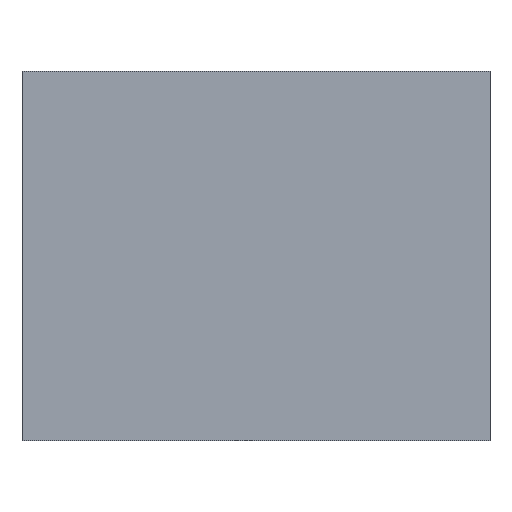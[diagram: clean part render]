
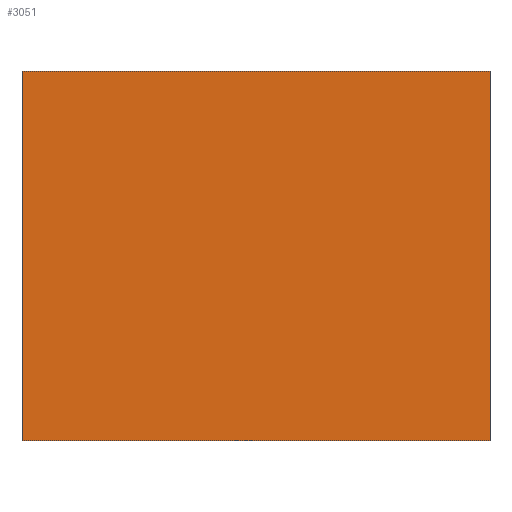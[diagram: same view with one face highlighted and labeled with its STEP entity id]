
A CAD part, front view. The second image highlights one B-rep face of the part: STEP entity #3051.
In plain terms, the highlighted planar face has unit normal (0, -1, 0).
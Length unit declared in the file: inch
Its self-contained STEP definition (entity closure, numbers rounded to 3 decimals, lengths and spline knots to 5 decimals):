
#3051 = ADVANCED_FACE ( 'NONE', ( #9987 ), #9986, .F. ) ;
#9983 = DIRECTION ( 'NONE',  ( 0., 0., -1. ) ) ;
#9984 = DIRECTION ( 'NONE',  ( 0., 1., 0. ) ) ;
#9986 = PLANE ( 'NONE',  #22031 ) ;
#9987 = FACE_OUTER_BOUND ( 'NONE', #22465, .T. ) ;
#9990 = CARTESIAN_POINT ( 'NONE',  ( 30.50066, -4.47983, -2.54624 ) ) ;
#11350 = CARTESIAN_POINT ( 'NONE',  ( -7.685, -4.47983, 5.9426 ) ) ;
#20133 = LINE ( 'NONE', #20135, #21493 ) ;
#20135 = CARTESIAN_POINT ( 'NONE',  ( -7.685, -4.47983, 5.9426 ) ) ;
#20136 = DIRECTION ( 'NONE',  ( -1., 0., 0. ) ) ;
#20146 = LINE ( 'NONE', #20147, #21498 ) ;
#20147 = CARTESIAN_POINT ( 'NONE',  ( 7.685, -4.47983, -6.18635 ) ) ;
#20148 = DIRECTION ( 'NONE',  ( 0., 0., 1. ) ) ;
#20150 = LINE ( 'NONE', #20168, #21506 ) ;
#20155 = LINE ( 'NONE', #20156, #21502 ) ;
#20156 = CARTESIAN_POINT ( 'NONE',  ( -7.685, -4.47983, -6.18635 ) ) ;
#20157 = DIRECTION ( 'NONE',  ( 1., 0., 0. ) ) ;
#20168 = CARTESIAN_POINT ( 'NONE',  ( -7.685, -4.47983, -6.18635 ) ) ;
#20169 = DIRECTION ( 'NONE',  ( 0., 0., -1. ) ) ;
#21493 = VECTOR ( 'NONE', #20136, 39.37008 ) ;
#21498 = VECTOR ( 'NONE', #20148, 39.37008 ) ;
#21502 = VECTOR ( 'NONE', #20157, 39.37008 ) ;
#21506 = VECTOR ( 'NONE', #20169, 39.37008 ) ;
#22031 = AXIS2_PLACEMENT_3D ( 'NONE', #9990, #9984, #9983 ) ;
#22371 = VERTEX_POINT ( 'NONE', #11350 ) ;
#22465 = EDGE_LOOP ( 'NONE', ( #22711, #22642, #22649, #22664 ) ) ;
#22642 = ORIENTED_EDGE ( 'NONE', *, *, #30049, .T. ) ;
#22649 = ORIENTED_EDGE ( 'NONE', *, *, #30046, .T. ) ;
#22664 = ORIENTED_EDGE ( 'NONE', *, *, #30042, .T. ) ;
#22711 = ORIENTED_EDGE ( 'NONE', *, *, #30053, .T. ) ;
#24004 = CARTESIAN_POINT ( 'NONE',  ( 7.685, -4.47983, -6.18635 ) ) ;
#24037 = CARTESIAN_POINT ( 'NONE',  ( -7.685, -4.47983, -6.18635 ) ) ;
#24096 = CARTESIAN_POINT ( 'NONE',  ( 7.685, -4.47983, 5.9426 ) ) ;
#27688 = VERTEX_POINT ( 'NONE', #24004 ) ;
#27721 = VERTEX_POINT ( 'NONE', #24037 ) ;
#27780 = VERTEX_POINT ( 'NONE', #24096 ) ;
#30042 = EDGE_CURVE ( 'NONE', #27780, #22371, #20133, .T. ) ;
#30046 = EDGE_CURVE ( 'NONE', #27688, #27780, #20146, .T. ) ;
#30049 = EDGE_CURVE ( 'NONE', #27721, #27688, #20155, .T. ) ;
#30053 = EDGE_CURVE ( 'NONE', #22371, #27721, #20150, .T. ) ;
